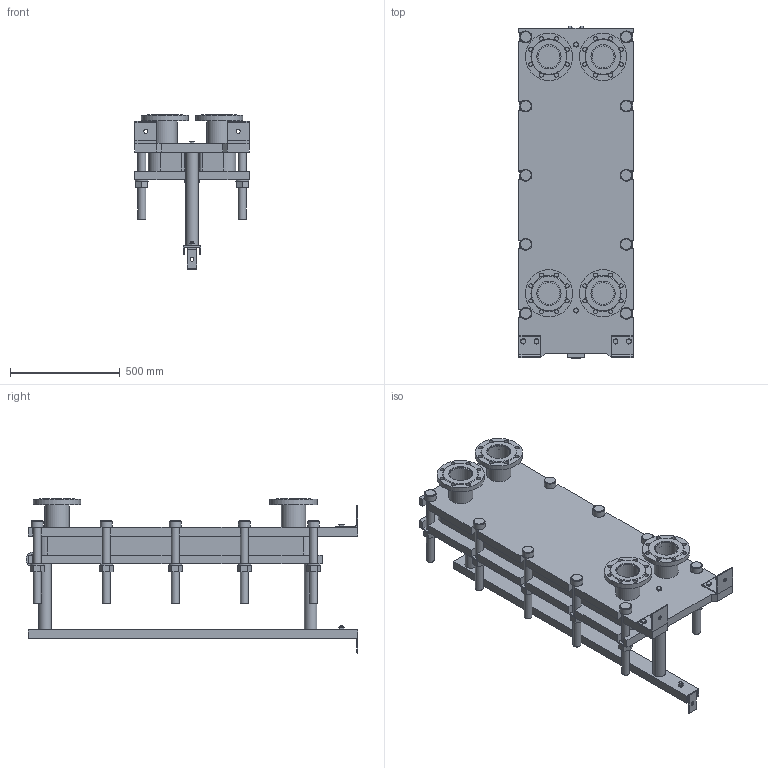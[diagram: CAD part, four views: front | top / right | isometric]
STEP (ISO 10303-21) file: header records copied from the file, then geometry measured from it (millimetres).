
FILE_DESCRIPTION(/* description */ (''),/* implementation_level */ '2;1');
FILE_NAME(/* name */ 'C:\Users\zhuro\Desktop\ENCO\TO\ЭН-04\ЭН-0,5-04-25-1.stp',/* time_stamp */ '2022-06-06T10:46:12+03:00',/* author */ ('zhuro'),/* organization */ (''),/* preprocessor_version */ 'ST-DEVELOPER v18.1',/* originating_system */ 'Autodesk Inventor 2022',/* authorisation */ '');
FILE_SCHEMA (('AUTOMOTIVE_DESIGN { 1 0 10303 214 3 1 1 }'));
Length unit declared in the file: millimetre
Products named in the file (1): ЭН-0,5-04-25-1
Bounding box: 520 x 1510 x 702.5 mm (x, y, z)
Volume: 110272440.2 mm3; surface area: 6706004.8 mm2
Topology: 45 solids, 45 shells, 668 faces, 1611 edges, 1048 vertices
Faces by surface type: plane 457, cylinder 166, cone 39, torus 6
Full cylindrical faces by diameter (mm): 8 x4, 10 x2, 16 x8, 18 x35, 36 x25, 40 x2, 42 x1, 45 x4, 54 x10, 57 x2, 60 x10, 68 x2, 100 x4, 110 x8, 215 x4
Entity records: 23607 total; most frequent: CARTESIAN_POINT 7348, DIRECTION 3371, ORIENTED_EDGE 3142, EDGE_CURVE 1571, AXIS2_PLACEMENT_3D 1199, VERTEX_POINT 1044, LINE 973, VECTOR 973
